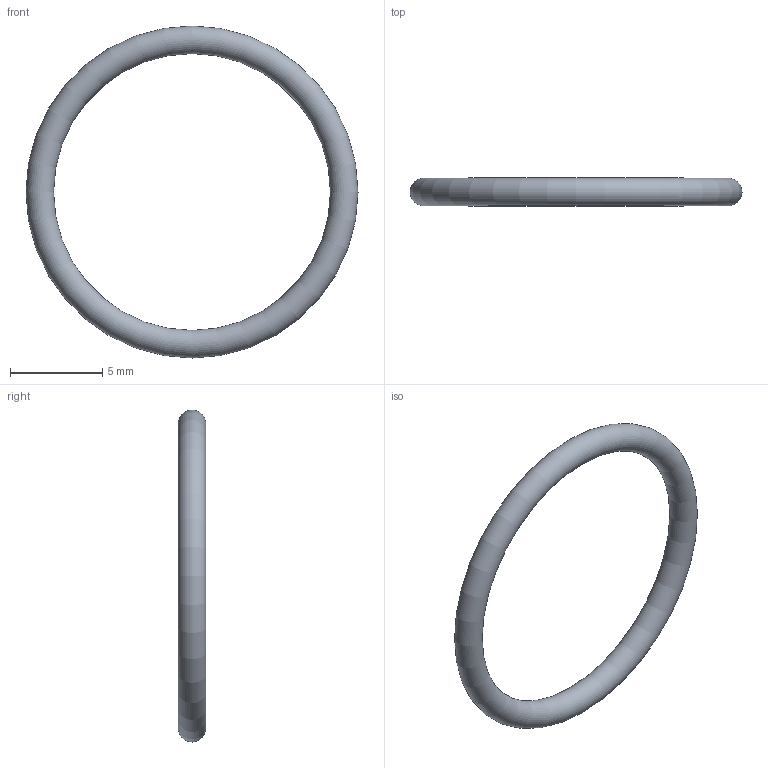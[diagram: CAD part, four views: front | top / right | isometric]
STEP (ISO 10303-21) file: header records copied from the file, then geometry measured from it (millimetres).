
FILE_DESCRIPTION(/* description */ (''),/* implementation_level */ '2;1');
FILE_NAME(/* name */ 'C:/Users/drich/Desktop/S8 v1.step',/* time_stamp */ '2020-02-10T19:57:30-06:00',/* author */ (''),/* organization */ (''),/* preprocessor_version */ 'ST-DEVELOPER v18',/* originating_system */ 'Autodesk Translation Framework v8.12.0.6',/* authorisation */ '');
FILE_SCHEMA (('AUTOMOTIVE_DESIGN { 1 0 10303 214 3 1 1 }'));
Length unit declared in the file: inch
Products named in the file (1): S8
Bounding box: 18.01 x 1.5 x 18.01 mm (x, y, z)
Volume: 91.5 mm3; surface area: 244.2 mm2
Topology: 1 solids, 1 shells, 1 faces, 2 edges, 1 vertices
Faces by surface type: torus 1
Entity records: 76 total; most frequent: DIRECTION 8, CARTESIAN_POINT 5, ORIENTED_EDGE 4, AXIS2_PLACEMENT_3D 4, CIRCLE 2, EDGE_CURVE 2, DERIVED_UNIT_ELEMENT 2, PROPERTY_DEFINITION_REPRESENTATION 2
